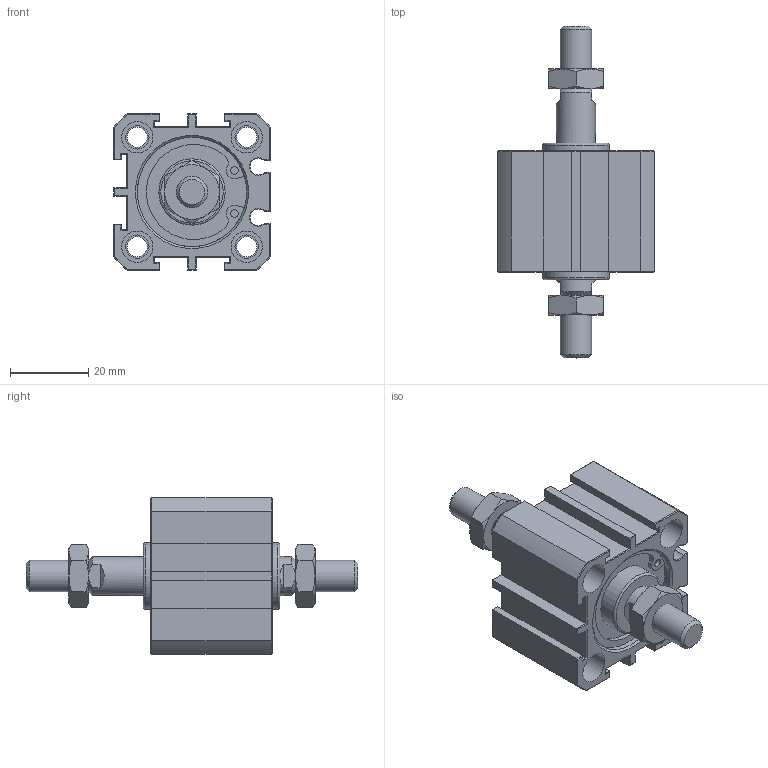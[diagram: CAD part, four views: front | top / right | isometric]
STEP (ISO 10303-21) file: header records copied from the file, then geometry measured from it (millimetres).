
FILE_DESCRIPTION(/* description */ (''),/* implementation_level */ '2;1');
FILE_NAME(/* name */ 'AJC-SW25X10W',/* time_stamp */ '2019-07-02T08:30:17+08:00',/* author */ ('JEFF HUANG'),/* organization */ ('TAIWAN AMAC CLAMP INDUSTRIAL CO., LTD.'),/* preprocessor_version */ 'ST-DEVELOPER v16.7',/* originating_system */ 'DEX',/* authorisation */ $);
FILE_SCHEMA (('AUTOMOTIVE_DESIGN {1 0 10303 214 3 1 1}'));
Length unit declared in the file: millimetre
Products named in the file (1): AJC-SW25X10W
Bounding box: 40 x 85 x 40 mm (x, y, z)
Volume: 41488.2 mm3; surface area: 15459.1 mm2
Topology: 1 solids, 1 shells, 299 faces, 655 edges, 390 vertices
Faces by surface type: plane 200, cylinder 53, cone 44, torus 2
Full cylindrical faces by diameter (mm): 2.004 x4, 5 x2, 5.1 x4, 6 x8, 8 x10, 10 x1, 17 x2, 28 x2
Entity records: 9949 total; most frequent: CARTESIAN_POINT 1536, DIRECTION 1290, ORIENTED_EDGE 1218, EDGE_CURVE 609, AXIS2_PLACEMENT_3D 461, VERTEX_POINT 383, EDGE_LOOP 378, FACE_BOUND 378
